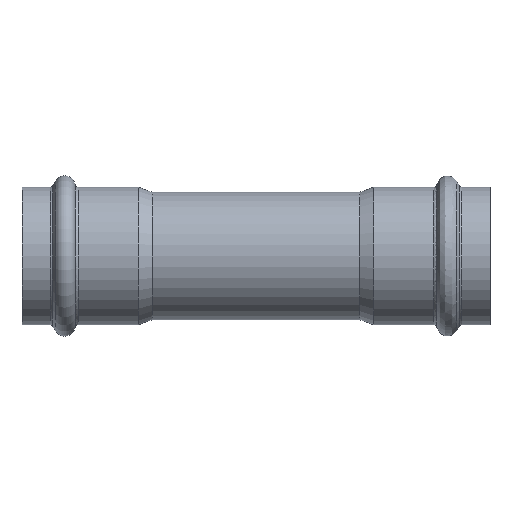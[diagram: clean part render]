
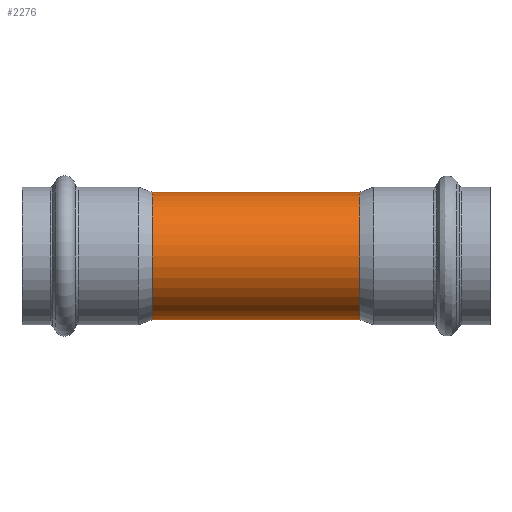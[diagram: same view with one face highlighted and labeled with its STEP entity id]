
A CAD part, front view. The second image highlights one B-rep face of the part: STEP entity #2276.
In plain terms, the highlighted cylindrical face has radius 21 mm (diameter 42 mm), a full revolution.
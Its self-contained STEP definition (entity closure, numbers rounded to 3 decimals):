
#2065=CARTESIAN_POINT('',(0.,15.362,-14.318));
#2066=VERTEX_POINT('',#2065);
#2150=CARTESIAN_POINT('',(0.,15.362,-14.318));
#2151=CARTESIAN_POINT('',(0.,15.362,-14.318));
#2152=CARTESIAN_POINT('',(0.,15.362,-14.318));
#2153=CARTESIAN_POINT('',(0.,15.362,-14.318));
#2154=CARTESIAN_POINT('',(-0.87,15.362,-14.318));
#2155=CARTESIAN_POINT('',(-1.957,15.448,-14.227));
#2156=CARTESIAN_POINT('',(-3.082,15.639,-14.015));
#2157=CARTESIAN_POINT('',(-4.472,15.908,-13.713));
#2158=CARTESIAN_POINT('',(-6.126,16.397,-13.144));
#2159=CARTESIAN_POINT('',(-7.932,17.116,-12.179));
#2160=CARTESIAN_POINT('',(-8.824,17.516,-11.588));
#2161=CARTESIAN_POINT('',(-9.785,17.972,-10.876));
#2162=CARTESIAN_POINT('',(-10.688,18.434,-10.087));
#2163=CARTESIAN_POINT('',(-11.891,19.094,-8.779));
#2164=CARTESIAN_POINT('',(-12.857,19.658,-7.452));
#2165=CARTESIAN_POINT('',(-13.523,20.064,-6.226));
#2166=CARTESIAN_POINT('',(-13.821,20.249,-5.567));
#2167=CARTESIAN_POINT('',(-14.177,20.471,-4.736));
#2168=CARTESIAN_POINT('',(-14.655,20.776,-3.306));
#2169=CARTESIAN_POINT('',(-14.91,20.941,-1.755));
#2170=CARTESIAN_POINT('',(-15.002,21.001,-0.467));
#2171=CARTESIAN_POINT('',(-15.01,21.006,0.273));
#2172=CARTESIAN_POINT('',(-14.926,20.952,1.656));
#2173=CARTESIAN_POINT('',(-14.658,20.778,3.294));
#2174=CARTESIAN_POINT('',(-14.077,20.408,5.036));
#2175=CARTESIAN_POINT('',(-13.519,20.062,6.223));
#2176=CARTESIAN_POINT('',(-13.176,19.853,6.85));
#2177=CARTESIAN_POINT('',(-12.717,19.577,7.618));
#2178=CARTESIAN_POINT('',(-11.82,19.052,8.901));
#2179=CARTESIAN_POINT('',(-10.591,18.378,10.196));
#2180=CARTESIAN_POINT('',(-9.362,17.768,11.203));
#2181=CARTESIAN_POINT('',(-8.343,17.295,11.923));
#2182=CARTESIAN_POINT('',(-7.447,16.92,12.443));
#2183=CARTESIAN_POINT('',(-6.796,16.675,12.765));
#2184=CARTESIAN_POINT('',(-5.974,16.375,13.154));
#2185=CARTESIAN_POINT('',(-4.553,15.924,13.699));
#2186=CARTESIAN_POINT('',(-2.787,15.565,14.098));
#2187=CARTESIAN_POINT('',(-1.547,15.428,14.247));
#2188=CARTESIAN_POINT('',(-0.777,15.375,14.305));
#2189=CARTESIAN_POINT('',(0.48,15.342,14.34));
#2190=CARTESIAN_POINT('',(2.318,15.47,14.203));
#2191=CARTESIAN_POINT('',(4.541,15.921,13.703));
#2192=CARTESIAN_POINT('',(6.281,16.473,13.036));
#2193=CARTESIAN_POINT('',(7.576,16.972,12.372));
#2194=CARTESIAN_POINT('',(8.798,17.495,11.633));
#2195=CARTESIAN_POINT('',(10.076,18.113,10.659));
#2196=CARTESIAN_POINT('',(11.152,18.686,9.601));
#2197=CARTESIAN_POINT('',(11.846,19.073,8.796));
#2198=CARTESIAN_POINT('',(12.385,19.383,8.095));
#2199=CARTESIAN_POINT('',(13.265,19.902,6.785));
#2200=CARTESIAN_POINT('',(13.886,20.289,5.508));
#2201=CARTESIAN_POINT('',(14.287,20.542,4.366));
#2202=CARTESIAN_POINT('',(14.437,20.637,3.902));
#2203=CARTESIAN_POINT('',(14.737,20.829,2.812));
#2204=CARTESIAN_POINT('',(15.015,21.01,1.112));
#2205=CARTESIAN_POINT('',(15.015,21.009,-1.116));
#2206=CARTESIAN_POINT('',(14.701,20.806,-3.028));
#2207=CARTESIAN_POINT('',(14.279,20.536,-4.432));
#2208=CARTESIAN_POINT('',(13.751,20.204,-5.789));
#2209=CARTESIAN_POINT('',(12.965,19.721,-7.304));
#2210=CARTESIAN_POINT('',(11.883,19.09,-8.79));
#2211=CARTESIAN_POINT('',(10.86,18.529,-9.899));
#2212=CARTESIAN_POINT('',(10.083,18.125,-10.615));
#2213=CARTESIAN_POINT('',(8.734,17.461,-11.701));
#2214=CARTESIAN_POINT('',(7.115,16.756,-12.681));
#2215=CARTESIAN_POINT('',(5.073,16.085,-13.506));
#2216=CARTESIAN_POINT('',(3.438,15.683,-13.969));
#2217=CARTESIAN_POINT('',(1.742,15.423,-14.253));
#2218=CARTESIAN_POINT('',(0.58,15.362,-14.318));
#2219=CARTESIAN_POINT('',(0.,15.362,-14.318));
#2220=B_SPLINE_CURVE_WITH_KNOTS('',3,(#2150,#2151,#2152,#2153,#2154,#2155,#2156,#2157,#2158,#2159,#2160,#2161,#2162,#2163,#2164,#2165,#2166,#2167,#2168,#2169,#2170,#2171,#2172,#2173,#2174,#2175,#2176,#2177,#2178,#2179,#2180,#2181,#2182,#2183,#2184,#2185,#2186,#2187,#2188,#2189,#2190,#2191,#2192,#2193,#2194,#2195,#2196,#2197,#2198,#2199,#2200,#2201,#2202,#2203,#2204,#2205,#2206,#2207,#2208,#2209,#2210,#2211,#2212,#2213,#2214,#2215,#2216,#2217,#2218,#2219),.UNSPECIFIED.,.T.,.U.,(4,3,1,1,1,1,1,1,1,1,1,1,1,1,1,1,1,1,1,1,1,1,1,1,1,1,1,1,1,1,1,1,1,1,1,1,1,1,1,1,1,1,1,1,1,1,1,1,1,1,1,1,1,1,1,1,1,1,1,1,1,1,1,1,1,4),(-8.789,-8.789,-8.553,-8.495,-8.475,-8.161,-8.004,-7.886,-7.847,-7.651,-7.533,-7.324,-7.167,-7.128,-7.115,-6.905,-6.696,-6.67,-6.539,-6.487,-6.278,-6.068,-5.964,-5.898,-5.859,-5.702,-5.441,-5.336,-5.231,-5.074,-5.035,-5.022,-4.813,-4.604,-4.525,-4.473,-4.394,-4.185,-3.976,-3.767,-3.662,-3.557,-3.348,-3.191,-3.113,-3.034,-2.93,-2.651,-2.624,-2.581,-2.511,-2.302,-2.093,-1.883,-1.753,-1.674,-1.465,-1.256,-1.138,-1.02,-0.942,-0.628,-0.471,-0.314,-0.157,0.),.UNSPECIFIED.);
#2221=EDGE_CURVE('',#2066,#2066,#2220,.T.);
#2246=CARTESIAN_POINT('',(-17.101,0.,0.0));
#2247=DIRECTION('',(1.0,0.,0.0));
#2248=DIRECTION('',(0.0,1.0,0.0));
#2249=AXIS2_PLACEMENT_3D('',#2246,#2247,#2248);
#2250=CYLINDRICAL_SURFACE('',#2249,21.);
#2251=CARTESIAN_POINT('',(-34.202,21.,0.0));
#2252=VERTEX_POINT('',#2251);
#2253=CARTESIAN_POINT('',(-34.202,0.,0.0));
#2254=DIRECTION('',(1.0,0.0,0.0));
#2255=DIRECTION('',(0.0,1.0,0.0));
#2256=AXIS2_PLACEMENT_3D('',#2253,#2254,#2255);
#2257=CIRCLE('',#2256,21.);
#2258=EDGE_CURVE('',#2252,#2252,#2257,.T.);
#2259=ORIENTED_EDGE('',*,*,#2258,.T.);
#2260=EDGE_LOOP('',(#2259));
#2261=FACE_OUTER_BOUND('',#2260,.T.);
#2262=CARTESIAN_POINT('',(34.202,21.0,0.0));
#2263=VERTEX_POINT('',#2262);
#2264=CARTESIAN_POINT('',(34.202,0.,0.0));
#2265=DIRECTION('',(1.0,0.0,0.0));
#2266=DIRECTION('',(0.0,1.0,0.0));
#2267=AXIS2_PLACEMENT_3D('',#2264,#2265,#2266);
#2268=CIRCLE('',#2267,21.);
#2269=EDGE_CURVE('',#2263,#2263,#2268,.T.);
#2270=ORIENTED_EDGE('',*,*,#2269,.F.);
#2271=EDGE_LOOP('',(#2270));
#2272=FACE_BOUND('',#2271,.T.);
#2273=ORIENTED_EDGE('',*,*,#2221,.F.);
#2274=EDGE_LOOP('',(#2273));
#2275=FACE_BOUND('',#2274,.T.);
#2276=ADVANCED_FACE('',(#2261,#2272,#2275),#2250,.T.);
